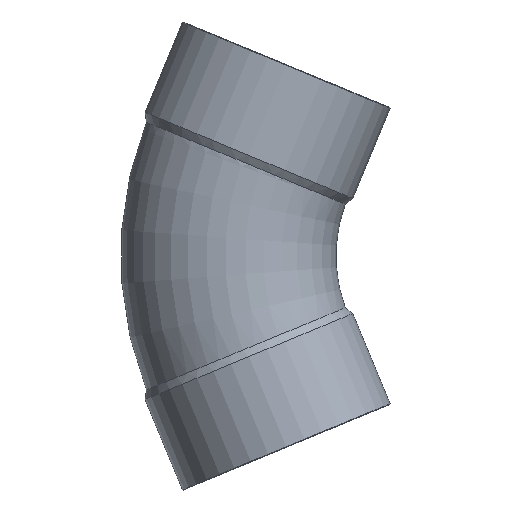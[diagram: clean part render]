
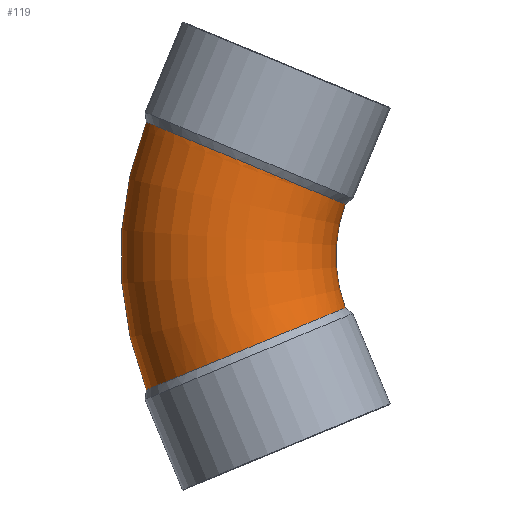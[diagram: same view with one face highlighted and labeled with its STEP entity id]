
A CAD part, front view. The second image highlights one B-rep face of the part: STEP entity #119.
In plain terms, the highlighted toroidal (fillet/blend) face has major radius 96 mm and minor radius 40 mm.
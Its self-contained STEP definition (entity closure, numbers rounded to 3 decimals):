
#44=CARTESIAN_POINT('',(4.435,0.,0.));
#45=DIRECTION('',(0.,1.0,0.));
#46=DIRECTION('',(-0.383,0.,0.924));
#47=AXIS2_PLACEMENT_3D('',#44,#45,#46);
#48=TOROIDAL_SURFACE('',#47,96.0,40.0);
#49=CARTESIAN_POINT('',(-122.112,0.,-49.818));
#50=VERTEX_POINT('',#49);
#51=CARTESIAN_POINT('',(-122.112,0.,49.818));
#52=VERTEX_POINT('',#51);
#53=CARTESIAN_POINT('',(4.435,0.,0.));
#54=DIRECTION('',(0.0,1.0,0.0));
#55=DIRECTION('',(0.0,0.0,1.0));
#56=AXIS2_PLACEMENT_3D('',#53,#54,#55);
#57=CIRCLE('',#56,136.0);
#58=EDGE_CURVE('',#50,#52,#57,.T.);
#59=ORIENTED_EDGE('',*,*,#58,.F.);
#60=CARTESIAN_POINT('',(-48.133,0.,-19.302));
#61=VERTEX_POINT('',#60);
#62=CARTESIAN_POINT('',(-122.112,0.,-49.818));
#63=CARTESIAN_POINT('',(-122.112,-2.949,-49.818));
#64=CARTESIAN_POINT('',(-121.811,-5.888,-49.694));
#65=CARTESIAN_POINT('',(-120.616,-11.643,-49.2));
#66=CARTESIAN_POINT('',(-119.727,-14.439,-48.832));
#67=CARTESIAN_POINT('',(-116.502,-21.813,-47.499));
#68=CARTESIAN_POINT('',(-113.613,-26.041,-46.305));
#69=CARTESIAN_POINT('',(-106.499,-33.062,-43.365));
#70=CARTESIAN_POINT('',(-102.342,-35.788,-41.647));
#71=CARTESIAN_POINT('',(-93.293,-39.361,-37.91));
#72=CARTESIAN_POINT('',(-88.489,-40.174,-35.926));
#73=CARTESIAN_POINT('',(-78.861,-39.763,-31.953));
#74=CARTESIAN_POINT('',(-74.13,-38.542,-30.001));
#75=CARTESIAN_POINT('',(-65.366,-34.207,-26.389));
#76=CARTESIAN_POINT('',(-61.417,-31.136,-24.763));
#77=CARTESIAN_POINT('',(-54.832,-23.531,-22.054));
#78=CARTESIAN_POINT('',(-52.258,-19.071,-20.996));
#79=CARTESIAN_POINT('',(-48.95,-9.664,-19.638));
#80=CARTESIAN_POINT('',(-48.133,-4.851,-19.302));
#81=CARTESIAN_POINT('',(-48.133,0.,-19.302));
#82=B_SPLINE_CURVE_WITH_KNOTS('',3,(#62,#63,#64,#65,#66,#67,#68,#69,#70,#71,#72,#73,#74,#75,#76,#77,#78,#79,#80,#81),.UNSPECIFIED.,.F.,.U.,(4,2,2,2,2,2,2,2,2,4),(-25.212,-24.327,-23.443,-21.88,-20.317,-18.754,-17.19,-15.627,-14.065,-12.608),.UNSPECIFIED.);
#83=EDGE_CURVE('',#50,#61,#82,.T.);
#84=ORIENTED_EDGE('',*,*,#83,.T.);
#85=CARTESIAN_POINT('',(-48.133,0.,19.302));
#86=VERTEX_POINT('',#85);
#87=CARTESIAN_POINT('',(4.435,0.,0.));
#88=DIRECTION('',(0.0,-1.0,0.0));
#89=DIRECTION('',(0.0,0.0,1.0));
#90=AXIS2_PLACEMENT_3D('',#87,#88,#89);
#91=CIRCLE('',#90,56.0);
#92=EDGE_CURVE('',#86,#61,#91,.T.);
#93=ORIENTED_EDGE('',*,*,#92,.F.);
#94=CARTESIAN_POINT('',(-48.133,0.,19.302));
#95=CARTESIAN_POINT('',(-48.133,-0.348,19.302));
#96=CARTESIAN_POINT('',(-48.137,-0.696,19.304));
#97=CARTESIAN_POINT('',(-48.272,-6.25,19.359));
#98=CARTESIAN_POINT('',(-49.338,-11.379,19.797));
#99=CARTESIAN_POINT('',(-53.229,-20.91,21.395));
#100=CARTESIAN_POINT('',(-56.018,-25.22,22.542));
#101=CARTESIAN_POINT('',(-62.967,-32.443,25.401));
#102=CARTESIAN_POINT('',(-67.061,-35.286,27.087));
#103=CARTESIAN_POINT('',(-76.023,-39.116,30.782));
#104=CARTESIAN_POINT('',(-80.807,-40.065,32.755));
#105=CARTESIAN_POINT('',(-90.44,-39.928,36.731));
#106=CARTESIAN_POINT('',(-95.196,-38.842,38.696));
#107=CARTESIAN_POINT('',(-104.057,-34.76,42.356));
#108=CARTESIAN_POINT('',(-108.075,-31.803,44.016));
#109=CARTESIAN_POINT('',(-114.838,-24.388,46.811));
#110=CARTESIAN_POINT('',(-117.517,-20.002,47.919));
#111=CARTESIAN_POINT('',(-121.172,-10.366,49.43));
#112=CARTESIAN_POINT('',(-122.112,-5.208,49.818));
#113=CARTESIAN_POINT('',(-122.112,0.,49.818));
#114=B_SPLINE_CURVE_WITH_KNOTS('',3,(#94,#95,#96,#97,#98,#99,#100,#101,#102,#103,#104,#105,#106,#107,#108,#109,#110,#111,#112,#113),.UNSPECIFIED.,.F.,.U.,(4,2,2,2,2,2,2,2,2,4),(-12.608,-12.503,-10.941,-9.378,-7.814,-6.251,-4.688,-3.125,-1.562,0.0),.UNSPECIFIED.);
#115=EDGE_CURVE('',#86,#52,#114,.T.);
#116=ORIENTED_EDGE('',*,*,#115,.T.);
#117=EDGE_LOOP('',(#59,#84,#93,#116));
#118=FACE_OUTER_BOUND('',#117,.T.);
#119=ADVANCED_FACE('',(#118),#48,.T.);
